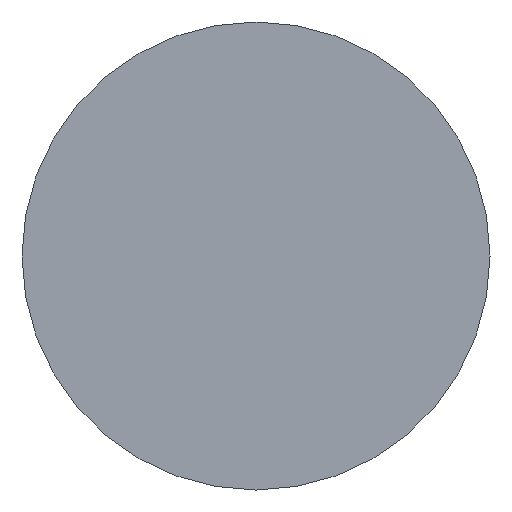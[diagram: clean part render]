
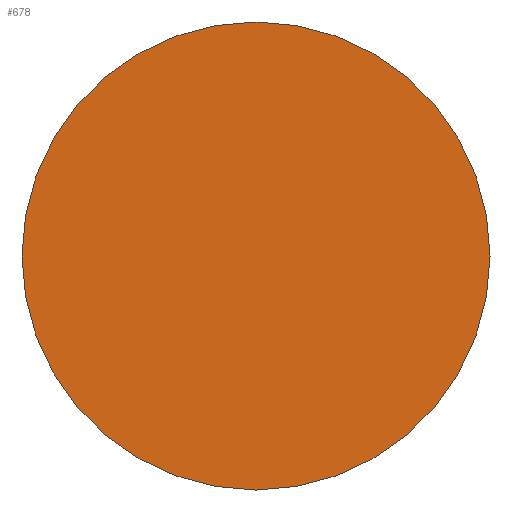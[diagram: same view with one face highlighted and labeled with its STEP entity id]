
A CAD part, left-side view. The second image highlights one B-rep face of the part: STEP entity #678.
In plain terms, the highlighted planar face has unit normal (-1, 0, 0).
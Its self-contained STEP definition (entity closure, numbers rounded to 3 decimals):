
#42 = CARTESIAN_POINT ( 'NONE',  ( 0., 0., 0. ) ) ;
#75 = EDGE_CURVE ( 'NONE', #136, #807, #546, .T. ) ;
#102 = CARTESIAN_POINT ( 'NONE',  ( 0., 0., 0. ) ) ;
#103 = AXIS2_PLACEMENT_3D ( 'NONE', #779, #377, #451 ) ;
#136 = VERTEX_POINT ( 'NONE', #437 ) ;
#159 = CARTESIAN_POINT ( 'NONE',  ( 0., 0., 12.5 ) ) ;
#196 = EDGE_CURVE ( 'NONE', #807, #136, #488, .T. ) ;
#238 = DIRECTION ( 'NONE',  ( 0., 0., -1. ) ) ;
#273 = DIRECTION ( 'NONE',  ( 1., 0., 0. ) ) ;
#377 = DIRECTION ( 'NONE',  ( -1., 0., 0. ) ) ;
#414 = FACE_OUTER_BOUND ( 'NONE', #823, .T. ) ;
#437 = CARTESIAN_POINT ( 'NONE',  ( 0., 0., -12.5 ) ) ;
#451 = DIRECTION ( 'NONE',  ( 0., 0., 1. ) ) ;
#488 = CIRCLE ( 'NONE', #530, 12.5 ) ;
#515 = AXIS2_PLACEMENT_3D ( 'NONE', #42, #273, #238 ) ;
#530 = AXIS2_PLACEMENT_3D ( 'NONE', #102, #740, #825 ) ;
#546 = CIRCLE ( 'NONE', #103, 12.5 ) ;
#552 = ORIENTED_EDGE ( 'NONE', *, *, #75, .T. ) ;
#678 = ADVANCED_FACE ( 'NONE', ( #414 ), #864, .F. ) ;
#725 = ORIENTED_EDGE ( 'NONE', *, *, #196, .T. ) ;
#740 = DIRECTION ( 'NONE',  ( -1., 0., 0. ) ) ;
#779 = CARTESIAN_POINT ( 'NONE',  ( 0., 0., 0. ) ) ;
#807 = VERTEX_POINT ( 'NONE', #159 ) ;
#823 = EDGE_LOOP ( 'NONE', ( #725, #552 ) ) ;
#825 = DIRECTION ( 'NONE',  ( 0., 0., 1. ) ) ;
#864 = PLANE ( 'NONE',  #515 ) ;
